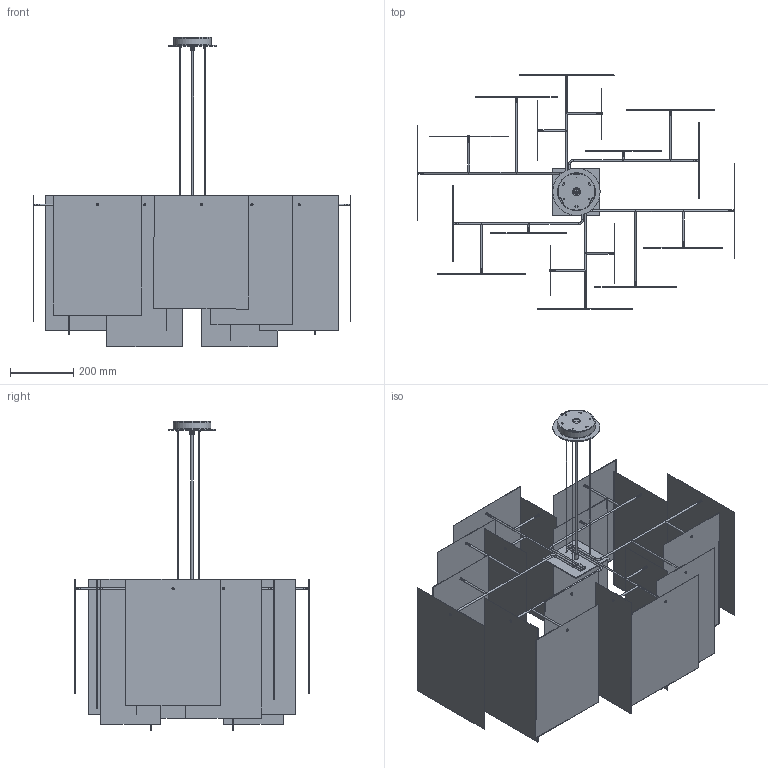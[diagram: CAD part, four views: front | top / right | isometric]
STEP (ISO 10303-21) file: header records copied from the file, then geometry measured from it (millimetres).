
FILE_DESCRIPTION((''),'2;1');
FILE_NAME('F:\KUBO SRL 2015\LAMPADA ALEXANDRA\DA FRANZOLINI DEL 27-02-15\ALEXANDRA 1 OVALE.stp','2015-08-18T09:50:44',('Utente'),(''),'Autodesk Inventor 11','Autodesk Inventor 11','');
FILE_SCHEMA(('AUTOMOTIVE_DESIGN { 1 0 10303 214 1 1 1 1 }'));
Length unit declared in the file: millimetre
Products named in the file (32): ALEXANDRA  1 OVALE; CAVO; ASSIEME ROSONE ALEX; STAFFA A SOFFITTO; STAFFA 2; REGOLATORE; ROSONE2; ALEX ROSONE 1; ALEX ROSONE 2; TIGE 25; BLOCCO; M8; AS 1969  (Rondella interna di bloccaggio con denti) M10; CAVO ELETTRICO SOSPENSIONE; BR OP 1; BRACCIO OP 1; FOP9; FOP4; FOP5; PERNO2; BR OP 2; BRACCIO OP 2; FOP8; FOP3; FOP2; BR OP 3; BRACCIO OP 3; FOP1; FOP7; FOP6; PIASTRA OP 1; BLOCCACAVO 1
Assembly tree (46 placements, depth 4):
  ALEXANDRA  1 OVALE
    CAVO  x3
    ASSIEME ROSONE ALEX
      STAFFA A SOFFITTO
      STAFFA 2
      REGOLATORE  x3
      ROSONE2
        ALEX ROSONE 1
        ALEX ROSONE 2
      TIGE 25
      BLOCCO
      M8
      AS 1969  (Rondella interna di bloccaggio con denti) M10
    CAVO ELETTRICO SOSPENSIONE
    BR OP 1  x2
      BRACCIO OP 1
      FOP9
      FOP4
      FOP5
      PERNO2
    BR OP 2  x2
      BRACCIO OP 2
      FOP8
      FOP3
      FOP2
      PERNO2
    BR OP 3  x2
      BRACCIO OP 3
      FOP1
      FOP7
      FOP6
      PERNO2
    PIASTRA OP 1
    BLOCCACAVO 1
Bounding box: 1007 x 745 x 981.1 mm (x, y, z)
Volume: 2198572.3 mm3; surface area: 4004522.7 mm2
Topology: 59 solids, 59 shells, 1277 faces, 3202 edges, 2066 vertices
Faces by surface type: plane 586, cylinder 347, cone 158, bspline 138, torus 48
Full cylindrical faces by diameter (mm): 1.5 x3, 2 x3, 3.2 x18, 4.1 x18, 5 x18, 6 x25, 7 x19, 8 x1, 8.5 x1, 9.5 x4, 10 x2, 12 x3, 18 x1, 117 x1, 117.5 x1, 120 x1, 150 x1
Entity records: 23177 total; most frequent: CARTESIAN_POINT 5864, DIRECTION 3514, ORIENTED_EDGE 3312, EDGE_CURVE 1656, AXIS2_PLACEMENT_3D 1342, VERTEX_POINT 1100, EDGE_LOOP 944, VECTOR 830
